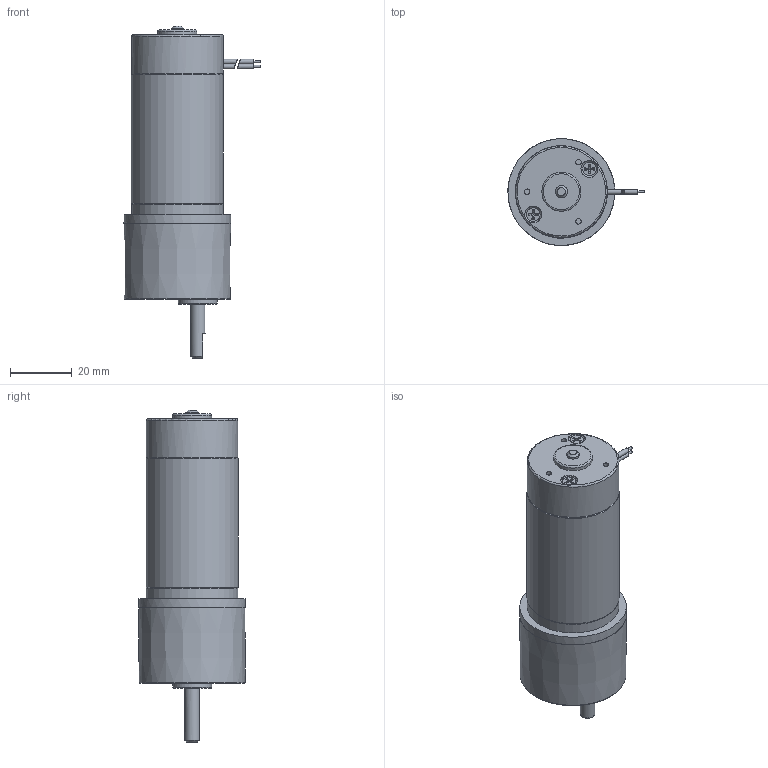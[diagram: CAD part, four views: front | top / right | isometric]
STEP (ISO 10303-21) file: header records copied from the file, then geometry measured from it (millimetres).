
FILE_DESCRIPTION((''),'2;1');
FILE_NAME('Z:\4_DC\새 폴더\RS3 SERIES\RS34ㅁㅁL(V,W).stp','2015-02-12T15:59:32',('kdhkdh'),(''),'Autodesk Inventor 2013','Autodesk Inventor 2013','');
FILE_SCHEMA(('AUTOMOTIVE_DESIGN { 1 0 10303 214 1 1 1 1 }'));
Length unit declared in the file: millimetre
Products named in the file (1): 부품2
Bounding box: 44.28 x 34.74 x 107.89 mm (x, y, z)
Volume: 67614.5 mm3; surface area: 11367.7 mm2
Topology: 2 solids, 7 shells, 203 faces, 500 edges, 325 vertices
Faces by surface type: plane 76, cylinder 60, cone 43, torus 24
Full cylindrical faces by diameter (mm): 0.76 x2, 1.56 x4, 1.8 x3, 2.156 x3, 2.5 x5, 2.6 x2, 2.7 x3, 4 x1, 4.4 x5, 4.76 x1, 5.5 x5, 12.7 x2, 29.8 x2, 30 x1, 34.7 x1
Entity records: 6114 total; most frequent: CARTESIAN_POINT 1753, DIRECTION 842, ORIENTED_EDGE 818, EDGE_CURVE 409, AXIS2_PLACEMENT_3D 377, VERTEX_POINT 296, EDGE_LOOP 290, FACE_OUTER_BOUND 203
